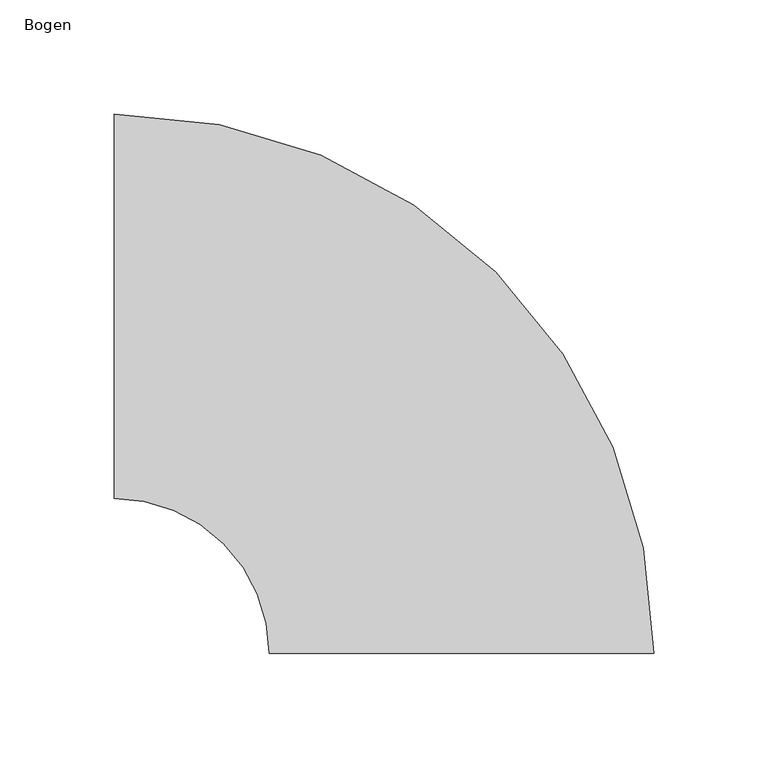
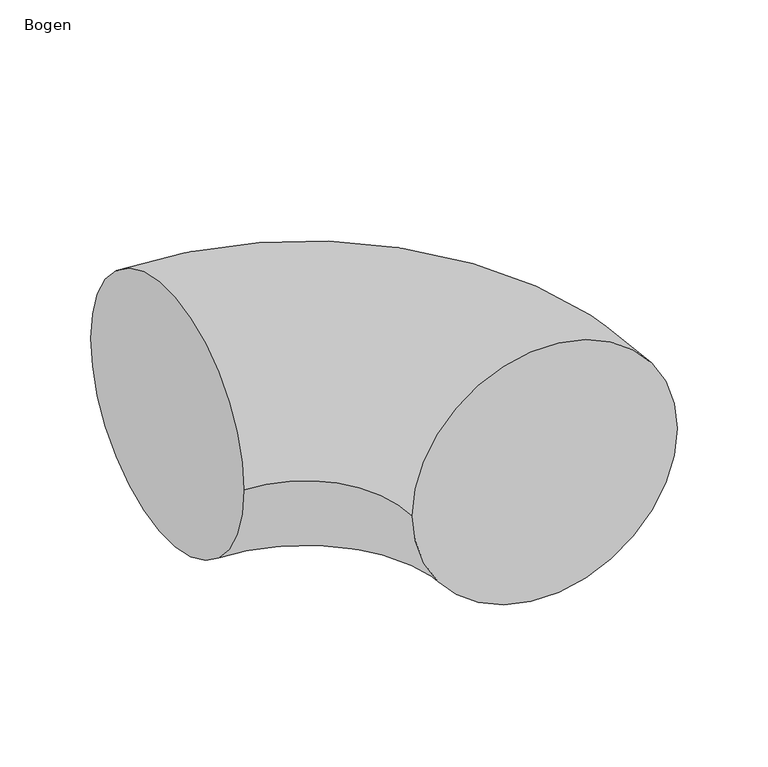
"""IFC4 building model written with IfcOpenShell, lengths in millimetres: pipe fitting geometry, Bogen : Formstück Schutzrohr Schwachstrom."""

from ifc_helpers import new_model, si_unit, point, frame, origin, place, context, project, spatial, circle_curve, ellipse_curve, trimmed, source, transform, mapped, element, save
from ifc_brep_helpers import plane_surface, revolved_surface, advanced_brep


def bogen_61cc4290(model_context):
    return source(origin(), model_context, "Body", "AdvancedBrep", [
        advanced_brep(
        [(-152.0, 84.15, 0.0), (-152.0, -84.15, 0.0), (84.15, -152.0, 0.0), (-84.15, -152.0, 0.0)],
        [
            (0, 1, circle_curve(frame((-152.0, 0.0, 0.0), z_axis=(-1.0, 0.0, 0.0), x_axis=(0.0, -1.0, 0.0)), 84.15)),
            (1, 0, circle_curve(frame((-152.0, 0.0, 0.0), z_axis=(-1.0, 0.0, 0.0), x_axis=(0.0, -1.0, 0.0)), 84.15)),
            (2, 3, circle_curve(frame((0.0, -152.0, 0.0), z_axis=(0.0, -1.0, 0.0), x_axis=(-1.0, 0.0, 0.0)), 84.15)),
            (3, 2, circle_curve(frame((0.0, -152.0, 0.0), z_axis=(0.0, -1.0, 0.0), x_axis=(-1.0, 0.0, 0.0)), 84.15)),
            (2, 0, circle_curve(frame((-152.0, -152.0, 0.0), z_axis=(0.0, 0.0, 1.0), x_axis=(0.0, 1.0, 0.0)), 236.15)),
            (1, 3, circle_curve(frame((-152.0, -152.0, 0.0), z_axis=(0.0, 0.0, -1.0), x_axis=(0.0, 1.0, 0.0)), 67.85)),
        ],
        [
            plane_surface(frame((-152.0, 0.0, 0.0), z_axis=(-1.0, 0.0, 0.0), x_axis=(0.0, 0.0, 1.0))),
            plane_surface(frame((0.0, -152.0, 0.0), z_axis=(0.0, -1.0, 0.0), x_axis=(0.0, 0.0, 1.0))),
            revolved_surface(trimmed(ellipse_curve(frame((-152.0, 0.0, 0.0), z_axis=(1.0, 0.0, 0.0), x_axis=(0.0, -1.0, 0.0)), 84.15, 84.15), [point((-152.0, 84.15, 0.0))], [point((-152.0, -84.15, 0.0))], True, "CARTESIAN"), (-152.0, -152.0, 0.0), (0.0, 0.0, 1.0)),
            revolved_surface(trimmed(ellipse_curve(frame((-152.0, 0.0, 0.0), z_axis=(1.0, 0.0, 0.0), x_axis=(0.0, -1.0, 0.0)), 84.15, 84.15), [point((-152.0, -84.15, 0.0))], [point((-152.0, 84.15, 0.0))], True, "CARTESIAN"), (-152.0, -152.0, 0.0), (0.0, 0.0, 1.0)),
        ],
        [
            (0, [[1, 2]]),
            (1, [[3, 4]]),
            (2, [[-3, 5, -2, 6]]),
            (3, [[-4, -6, -1, -5]]),
        ],
    ),
    ])


if __name__ == "__main__":
    model = new_model("IFC4")
    model_context = context("Model", 3, world=origin())
    ifc_project = project(units=[si_unit("LENGTHUNIT", "METRE", prefix="MILLI")], contexts=[model_context])
    site = spatial("IfcSite", under=ifc_project)
    building = spatial("IfcBuilding", under=site)
    placement = place(None, origin())
    bogen_shape = bogen_61cc4290(model_context)
    element("IfcPipeFitting", 1, ObjectType="Bogen : Formstück Schutzrohr Schwachstrom", at=placement, inside=building, context=model_context, shape_type="MappedRepresentation", body=[
        mapped(bogen_shape, transform((0.0, 0.0, 0.0), x_axis=(1.0, 0.0, 0.0), y_axis=(0.0, 1.0, 0.0), z_axis=(0.0, 0.0, 1.0))),
    ])
    save(model, "model.ifc")
